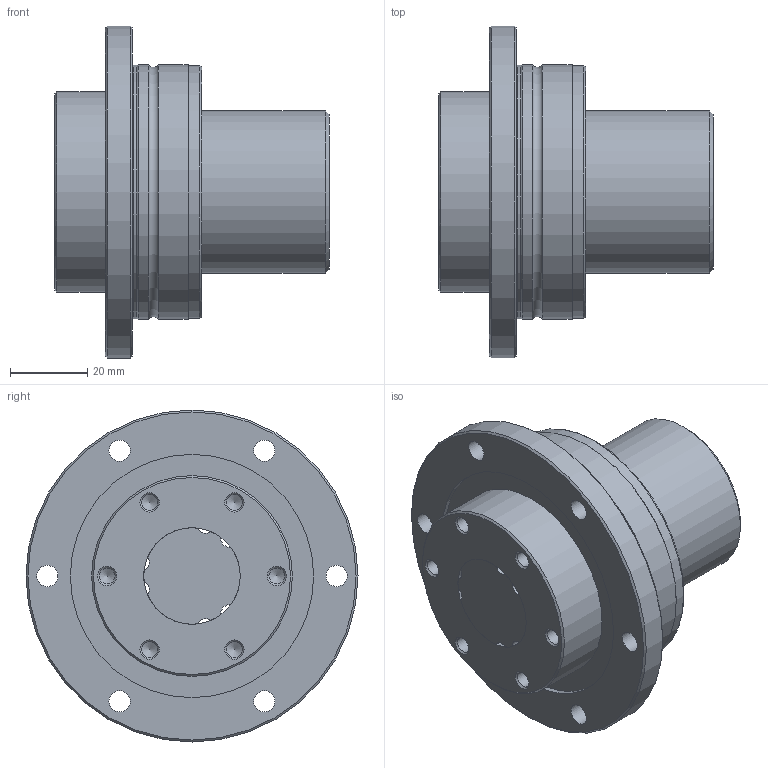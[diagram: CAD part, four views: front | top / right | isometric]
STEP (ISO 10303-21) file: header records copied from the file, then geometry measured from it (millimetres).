
FILE_DESCRIPTION(/* description */ ('STEP AP203'),/* implementation_level */ '2;1');
FILE_NAME(/* name */ 'LTR25A+71L(0_0)',/* time_stamp */ '2024-05-28T07:52:17+02:00',/* author */ ('License CC BY-ND 4.0'),/* organization */ ('CADENAS'),/* preprocessor_version */ 'ST-DEVELOPER v19.3',/* originating_system */ 'PARTsolutions',/* authorisation */ ' ');
FILE_SCHEMA (('CONFIG_CONTROL_DESIGN'));
Length unit declared in the file: millimetre
Products named in the file (3): LTR25A+71L(0,0); LTR 25A71 LTRA Shaft; LTR 25A LTRA ACyl
Assembly tree (3 placements, depth 2):
  LTR25A+71L(0,0)
    LTR 25A71 LTRA Shaft
    LTR 25A LTRA ACyl  x2
Bounding box: 71 x 86 x 86 mm (x, y, z)
Volume: 304282.9 mm3; surface area: 68055.2 mm2
Topology: 3 solids, 3 shells, 122 faces, 284 edges, 184 vertices
Faces by surface type: cylinder 60, cone 34, plane 22, torus 6
Full cylindrical faces by diameter (mm): 2 x2, 4.134 x12, 5.5 x12, 25 x2, 42 x2, 49.5 x2, 52 x2, 59.4 x2, 63.03 x2, 65.5 x2, 65.6 x2, 66 x4, 86 x2
Entity records: 1728 total; most frequent: DIRECTION 322, CARTESIAN_POINT 270, ORIENTED_EDGE 192, AXIS2_PLACEMENT_3D 155, FACE_BOUND 140, EDGE_LOOP 134, EDGE_CURVE 96, VERTEX_POINT 90
